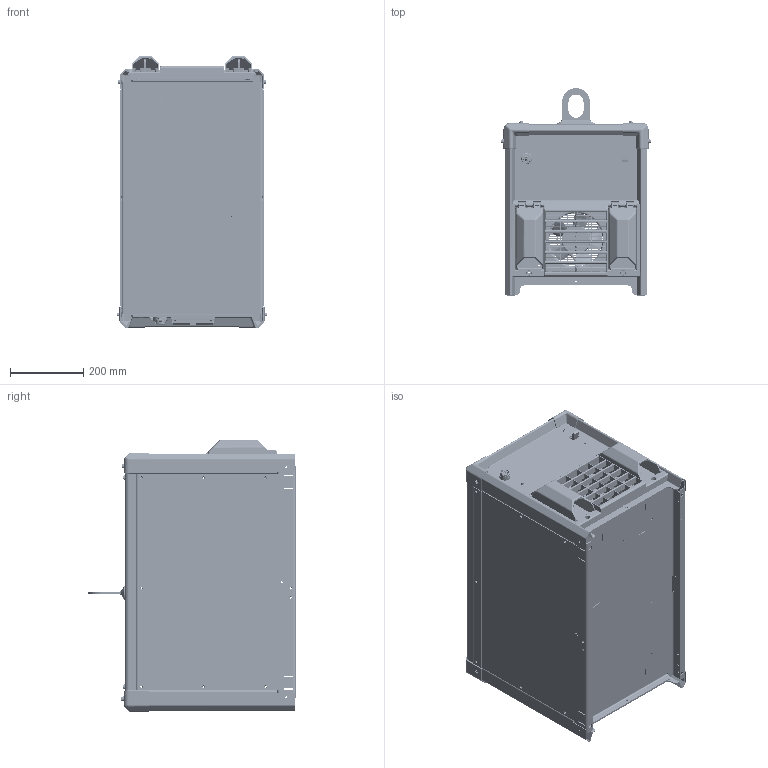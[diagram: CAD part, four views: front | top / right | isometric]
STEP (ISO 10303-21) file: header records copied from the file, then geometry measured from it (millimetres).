
FILE_DESCRIPTION (( 'STEP AP203' ), '1' );
FILE_NAME ('907747 - Shell Only.STEP', '2020-02-24T17:18:30', ( '' ), ( '' ), 'SwSTEP 2.0', 'SolidWorks 2017', '' );
FILE_SCHEMA (( 'CONFIG_CONTROL_DESIGN' ));
Length unit declared in the file: inch
Products named in the file (70): 244237; 232914_seal; 282080; 156734; 010909; 244920; 093995; 083432; 281942-001; 278285; 275726-2; 244237-002_bent; 266959; 152461; 278284; DDK_CE01-2A18-19ASC-F0(D95); 907747 - Shell Only; 283059; 263559; 279960; 244239-002; 279821; 263560; 244237-001; 248788; 279962; 278283; 213072; 278280; 250955; 275726-1; 213072-1; 176226; 604224; pan cross head_ai_CR-PHMS 0.138-32x0.625x0.625-N; 211907; 278282; 229314; 267900; 279221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
Assembly tree (126 placements, depth 4):
  907747 - Shell Only
    276698
    279960
      279962
        279962
        248788
        250955  x2
        279821  x8
        285072_CHS440-10  x2
      263560
      279221
      276854
      263559
      213072
        213072-1
        213072-2
      276855
      279964
      DDK_CE01-2A18-19ASC-F0(D95)
      278284  x2
      275726-1
      275726-2
      010909  x2
      241484  x2
      267900  x8
      604224  x8
      152461  x4
      229314  x10
      211907  x2
      282080
      282084
      283059
      156734
    282209
      276699
      093995
      604176
      083432
      265204
      281942
        281942-001
        244239-002
      281942 - Nut
      244237
        244237-002_bent
        244237-001
      154022_Closed
        154022-1
        154022-2
        154022-3
      280240
        280242
      278284  x2
      283059
      pan cross head_ai_CR-PHMS 0.138-32x0.625x0.625-N  x2
      oval head_ai_CR-OHMS 0.138-32x0.5x0.5-N  x2
      147195  x2
      604224  x4
      057359
      220580_220580  x2
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Bounding box: 407.82 x 567.5 x 743.94 mm (x, y, z)
Volume: 5695400.5 mm3; surface area: 4907029 mm2
Topology: 153 solids, 154 shells, 21100 faces, 55000 edges, 34549 vertices
Faces by surface type: plane 10103, cylinder 7059, bspline 2332, cone 662, torus 633, sphere 311
Entity records: 671657 total; most frequent: CARTESIAN_POINT 201858, ORIENTED_EDGE 99856, DIRECTION 90846, EDGE_CURVE 49928, VERTEX_POINT 31590, AXIS2_PLACEMENT_3D 30399, VECTOR 30048, LINE 30048
